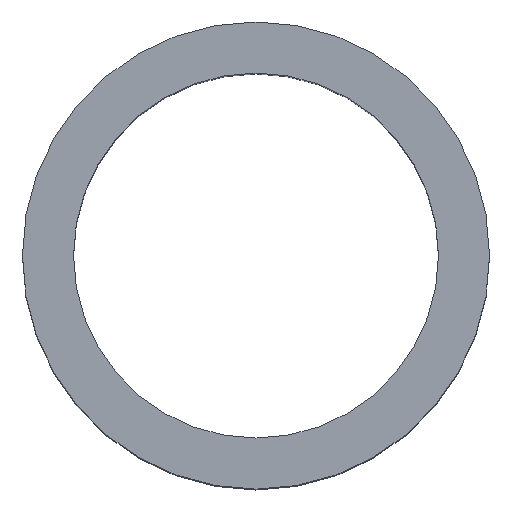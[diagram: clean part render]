
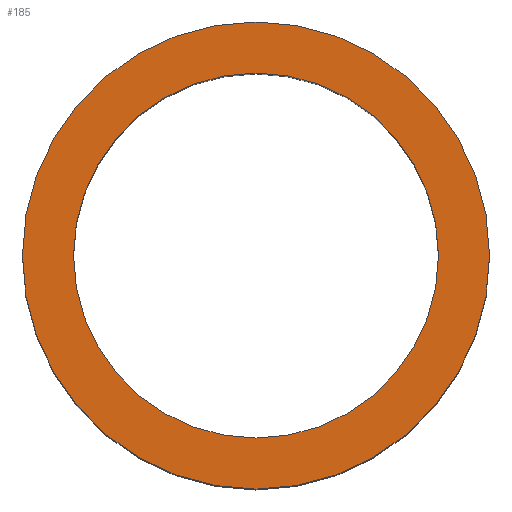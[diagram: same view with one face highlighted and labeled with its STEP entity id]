
A CAD part, top view. The second image highlights one B-rep face of the part: STEP entity #185.
In plain terms, the highlighted planar face has unit normal (0, 0, 1).
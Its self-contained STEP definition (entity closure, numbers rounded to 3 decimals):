
#185=ADVANCED_FACE('',(#211,#212),#209,.T.);
#209=PLANE('',#442);
#211=FACE_BOUND('',#215,.T.);
#212=FACE_BOUND('',#216,.T.);
#215=EDGE_LOOP('',(#241,#242));
#216=EDGE_LOOP('',(#243,#244));
#241=ORIENTED_EDGE('',*,*,#363,.T.);
#242=ORIENTED_EDGE('',*,*,#364,.T.);
#243=ORIENTED_EDGE('',*,*,#365,.F.);
#244=ORIENTED_EDGE('',*,*,#366,.F.);
#337=VERTEX_POINT('',#614);
#338=VERTEX_POINT('',#615);
#339=VERTEX_POINT('',#618);
#340=VERTEX_POINT('',#619);
#363=EDGE_CURVE('',#337,#338,#411,.T.);
#364=EDGE_CURVE('',#338,#337,#412,.T.);
#365=EDGE_CURVE('',#339,#340,#413,.T.);
#366=EDGE_CURVE('',#340,#339,#414,.T.);
#411=CIRCLE('',#438,16.);
#412=CIRCLE('',#439,16.);
#413=CIRCLE('',#440,12.5);
#414=CIRCLE('',#441,12.5);
#438=AXIS2_PLACEMENT_3D('',#613,#490,#491);
#439=AXIS2_PLACEMENT_3D('',#616,#492,#493);
#440=AXIS2_PLACEMENT_3D('',#617,#494,#495);
#441=AXIS2_PLACEMENT_3D('',#620,#496,#497);
#442=AXIS2_PLACEMENT_3D('',#621,#498,#499);
#490=DIRECTION('',(0.,0.,1.));
#491=DIRECTION('',(0.,-1.,0.));
#492=DIRECTION('',(0.,0.,1.));
#493=DIRECTION('',(0.,1.,0.));
#494=DIRECTION('',(0.,0.,1.));
#495=DIRECTION('',(0.,1.,0.));
#496=DIRECTION('',(0.,0.,1.));
#497=DIRECTION('',(0.,-1.,0.));
#498=DIRECTION('',(0.,0.,1.));
#499=DIRECTION('',(0.,-1.,0.));
#613=CARTESIAN_POINT('',(0.,0.,35.));
#614=CARTESIAN_POINT('',(16.,0.,35.));
#615=CARTESIAN_POINT('',(-16.,0.,35.));
#616=CARTESIAN_POINT('',(0.,0.,35.));
#617=CARTESIAN_POINT('',(0.,0.,35.));
#618=CARTESIAN_POINT('',(-12.5,0.,35.));
#619=CARTESIAN_POINT('',(12.5,0.,35.));
#620=CARTESIAN_POINT('',(0.,0.,35.));
#621=CARTESIAN_POINT('',(0.,0.,35.));
